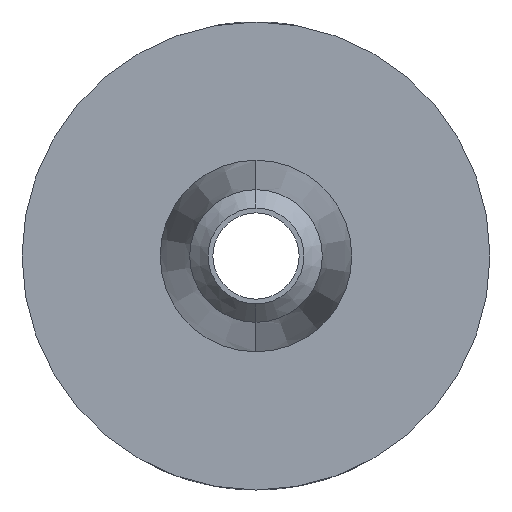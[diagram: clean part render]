
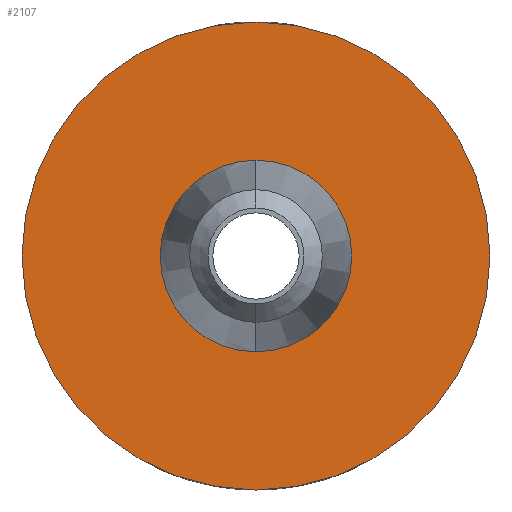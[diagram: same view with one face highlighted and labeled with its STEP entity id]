
A CAD part, left-side view. The second image highlights one B-rep face of the part: STEP entity #2107.
In plain terms, the highlighted planar face has unit normal (1, 0, 0).
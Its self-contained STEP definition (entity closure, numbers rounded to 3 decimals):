
#38=PLANE('',#2407);
#61=FACE_BOUND('',#189,.T.);
#106=FACE_OUTER_BOUND('',#188,.T.);
#188=EDGE_LOOP('',(#1729));
#189=EDGE_LOOP('',(#1730));
#297=CIRCLE('',#2408,3.175);
#298=CIRCLE('',#2409,1.3);
#955=VERTEX_POINT('',#3842);
#956=VERTEX_POINT('',#3844);
#1342=EDGE_CURVE('',#955,#955,#297,.T.);
#1343=EDGE_CURVE('',#956,#956,#298,.T.);
#1729=ORIENTED_EDGE('',*,*,#1342,.T.);
#1730=ORIENTED_EDGE('',*,*,#1343,.T.);
#2107=ADVANCED_FACE('',(#106,#61),#38,.T.);
#2407=AXIS2_PLACEMENT_3D('',#3841,#2673,#2674);
#2408=AXIS2_PLACEMENT_3D('',#3843,#2675,#2676);
#2409=AXIS2_PLACEMENT_3D('',#3845,#2677,#2678);
#2673=DIRECTION('center_axis',(1.,0.,0.));
#2674=DIRECTION('ref_axis',(0.,0.,-1.));
#2675=DIRECTION('center_axis',(1.,0.,0.));
#2676=DIRECTION('ref_axis',(0.,0.,-1.));
#2677=DIRECTION('center_axis',(-1.,0.,0.));
#2678=DIRECTION('ref_axis',(0.,0.,
-1.));
#3841=CARTESIAN_POINT('Origin',(-4.75,-3.213,0.));
#3842=CARTESIAN_POINT('',(-4.75,0.,3.175));
#3843=CARTESIAN_POINT('Origin',(-4.75,0.,0.));
#3844=CARTESIAN_POINT('',(-4.75,0.,1.3));
#3845=CARTESIAN_POINT('Origin',(-4.75,0.,0.));
